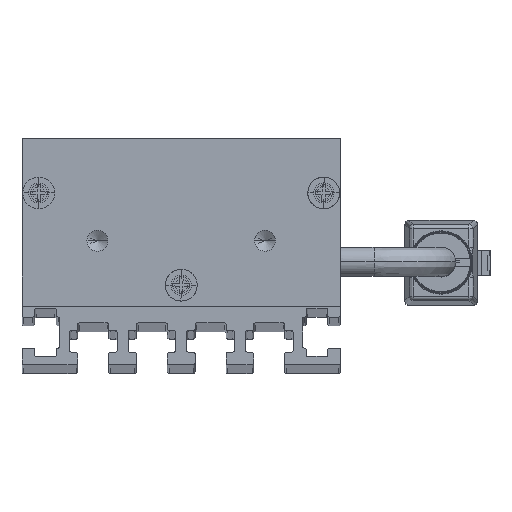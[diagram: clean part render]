
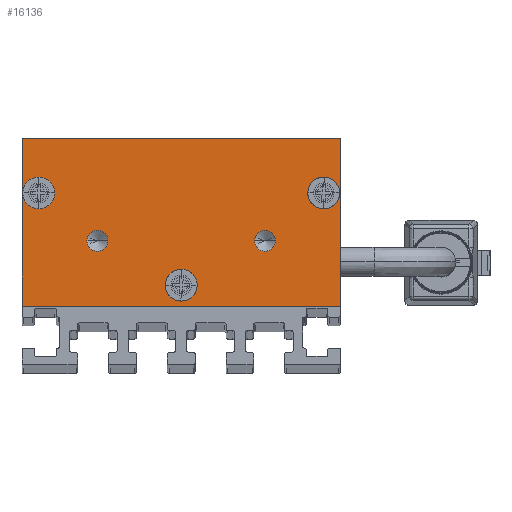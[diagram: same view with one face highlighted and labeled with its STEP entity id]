
A CAD part, top view. The second image highlights one B-rep face of the part: STEP entity #16136.
In plain terms, the highlighted planar face has unit normal (0, 0, 1) as drawn and (0, 0, -1) by its records, which use the part's own axes.
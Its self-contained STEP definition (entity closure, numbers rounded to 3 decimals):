
#133 = DIRECTION ( 'NONE',  ( 0., -1., 0. ) ) ;
#256 = DIRECTION ( 'NONE',  ( 0., 0., 1. ) ) ;
#304 = ORIENTED_EDGE ( 'NONE', *, *, #585, .F. ) ;
#562 = DIRECTION ( 'NONE',  ( 0., 0., -1. ) ) ;
#585 = EDGE_CURVE ( 'NONE', #1701, #11693, #7015, .T. ) ;
#697 = CIRCLE ( 'NONE', #11526, 1.9 ) ;
#937 = FACE_BOUND ( 'NONE', #6894, .T. ) ;
#1406 = AXIS2_PLACEMENT_3D ( 'NONE', #8312, #8391, #9309 ) ;
#1411 = FACE_BOUND ( 'NONE', #3206, .T. ) ;
#1440 = CARTESIAN_POINT ( 'NONE',  ( 18.9, 13.5, -2.5 ) ) ;
#1482 = DIRECTION ( 'NONE',  ( -1., 0., 0. ) ) ;
#1517 = EDGE_CURVE ( 'NONE', #8710, #2557, #14678, .T. ) ;
#1574 = CARTESIAN_POINT ( 'NONE',  ( -8.75, 7.8, -2.5 ) ) ;
#1701 = VERTEX_POINT ( 'NONE', #1440 ) ;
#1941 = EDGE_CURVE ( 'NONE', #4149, #5088, #9570, .T. ) ;
#1951 = VECTOR ( 'NONE', #133, 1000. ) ;
#2025 = CARTESIAN_POINT ( 'NONE',  ( -10., 7.8, -2.5 ) ) ;
#2254 = EDGE_CURVE ( 'NONE', #15345, #3877, #15181, .T. ) ;
#2317 = CARTESIAN_POINT ( 'NONE',  ( -1.9, 2.5, -2.5 ) ) ;
#2557 = VERTEX_POINT ( 'NONE', #9157 ) ;
#2591 = CARTESIAN_POINT ( 'NONE',  ( 15.1, 13.5, -2.5 ) ) ;
#2594 = VERTEX_POINT ( 'NONE', #2938 ) ;
#2641 = CARTESIAN_POINT ( 'NONE',  ( -19., 0., -2.5 ) ) ;
#2702 = AXIS2_PLACEMENT_3D ( 'NONE', #14650, #9909, #14984 ) ;
#2868 = LINE ( 'NONE', #3200, #3971 ) ;
#2903 = EDGE_LOOP ( 'NONE', ( #15952, #14654, #4337, #10030 ) ) ;
#2923 = DIRECTION ( 'NONE',  ( -1., 0., 0. ) ) ;
#2938 = CARTESIAN_POINT ( 'NONE',  ( -11.25, 7.8, -2.5 ) ) ;
#2990 = CARTESIAN_POINT ( 'NONE',  ( 0., 2.5, -2.5 ) ) ;
#3126 = CARTESIAN_POINT ( 'NONE',  ( -18.9, 13.5, -2.5 ) ) ;
#3200 = CARTESIAN_POINT ( 'NONE',  ( 19., 20., -2.5 ) ) ;
#3206 = EDGE_LOOP ( 'NONE', ( #13642, #5934 ) ) ;
#3350 = EDGE_CURVE ( 'NONE', #3877, #15345, #3976, .T. ) ;
#3461 = VECTOR ( 'NONE', #13069, 1000. ) ;
#3808 = EDGE_CURVE ( 'NONE', #5088, #16309, #9177, .T. ) ;
#3877 = VERTEX_POINT ( 'NONE', #3126 ) ;
#3971 = VECTOR ( 'NONE', #11986, 1000. ) ;
#3976 = CIRCLE ( 'NONE', #5829, 1.9 ) ;
#4079 = CARTESIAN_POINT ( 'NONE',  ( 0., 0., -2.5 ) ) ;
#4149 = VERTEX_POINT ( 'NONE', #4936 ) ;
#4337 = ORIENTED_EDGE ( 'NONE', *, *, #5984, .F. ) ;
#4406 = EDGE_CURVE ( 'NONE', #15134, #2594, #14573, .T. ) ;
#4510 = DIRECTION ( 'NONE',  ( -1., 0., 0. ) ) ;
#4614 = CARTESIAN_POINT ( 'NONE',  ( -10., 7.8, -2.5 ) ) ;
#4817 = CARTESIAN_POINT ( 'NONE',  ( 1.9, 2.5, -2.5 ) ) ;
#4936 = CARTESIAN_POINT ( 'NONE',  ( -19., 20., -2.5 ) ) ;
#5085 = CIRCLE ( 'NONE', #11439, 1.9 ) ;
#5088 = VERTEX_POINT ( 'NONE', #2641 ) ;
#5106 = CARTESIAN_POINT ( 'NONE',  ( -19., 20., -2.5 ) ) ;
#5228 = PLANE ( 'NONE',  #15824 ) ;
#5258 = CARTESIAN_POINT ( 'NONE',  ( -19., 20., -2.5 ) ) ;
#5404 = ORIENTED_EDGE ( 'NONE', *, *, #15124, .F. ) ;
#5423 = AXIS2_PLACEMENT_3D ( 'NONE', #4614, #8493, #13484 ) ;
#5555 = DIRECTION ( 'NONE',  ( -1., 0., 0. ) ) ;
#5610 = DIRECTION ( 'NONE',  ( -1., 0., 0. ) ) ;
#5829 = AXIS2_PLACEMENT_3D ( 'NONE', #8942, #7775, #1482 ) ;
#5908 = CARTESIAN_POINT ( 'NONE',  ( 0., 2.5, -2.5 ) ) ;
#5934 = ORIENTED_EDGE ( 'NONE', *, *, #12941, .F. ) ;
#5984 = EDGE_CURVE ( 'NONE', #16309, #7040, #2868, .T. ) ;
#6739 = CIRCLE ( 'NONE', #5423, 1.25 ) ;
#6807 = CIRCLE ( 'NONE', #9979, 1.9 ) ;
#6894 = EDGE_LOOP ( 'NONE', ( #10839, #5404 ) ) ;
#7015 = CIRCLE ( 'NONE', #12004, 1.9 ) ;
#7021 = ORIENTED_EDGE ( 'NONE', *, *, #3350, .F. ) ;
#7040 = VERTEX_POINT ( 'NONE', #11083 ) ;
#7247 = AXIS2_PLACEMENT_3D ( 'NONE', #11911, #562, #5610 ) ;
#7401 = AXIS2_PLACEMENT_3D ( 'NONE', #2025, #13957, #15047 ) ;
#7525 = EDGE_CURVE ( 'NONE', #2594, #15134, #6739, .T. ) ;
#7775 = DIRECTION ( 'NONE',  ( 0., 0., -1. ) ) ;
#7788 = DIRECTION ( 'NONE',  ( 1., 0., 0. ) ) ;
#8312 = CARTESIAN_POINT ( 'NONE',  ( 10., 7.8, -2.5 ) ) ;
#8391 = DIRECTION ( 'NONE',  ( 0., 0., -1. ) ) ;
#8493 = DIRECTION ( 'NONE',  ( 0., 0., -1. ) ) ;
#8710 = VERTEX_POINT ( 'NONE', #15995 ) ;
#8942 = CARTESIAN_POINT ( 'NONE',  ( -17., 13.5, -2.5 ) ) ;
#9059 = ORIENTED_EDGE ( 'NONE', *, *, #7525, .F. ) ;
#9157 = CARTESIAN_POINT ( 'NONE',  ( 11.25, 7.8, -2.5 ) ) ;
#9177 = LINE ( 'NONE', #11905, #3461 ) ;
#9215 = CARTESIAN_POINT ( 'NONE',  ( 19., 0., -2.5 ) ) ;
#9309 = DIRECTION ( 'NONE',  ( -1., 0., 0. ) ) ;
#9455 = EDGE_CURVE ( 'NONE', #11693, #1701, #6807, .T. ) ;
#9467 = DIRECTION ( 'NONE',  ( 0., 0., -1. ) ) ;
#9570 = LINE ( 'NONE', #5106, #1951 ) ;
#9909 = DIRECTION ( 'NONE',  ( 0., 0., -1. ) ) ;
#9979 = AXIS2_PLACEMENT_3D ( 'NONE', #13122, #11703, #2923 ) ;
#10030 = ORIENTED_EDGE ( 'NONE', *, *, #3808, .F. ) ;
#10415 = VERTEX_POINT ( 'NONE', #4817 ) ;
#10542 = ORIENTED_EDGE ( 'NONE', *, *, #4406, .F. ) ;
#10651 = EDGE_LOOP ( 'NONE', ( #13235, #304 ) ) ;
#10668 = ORIENTED_EDGE ( 'NONE', *, *, #2254, .F. ) ;
#10839 = ORIENTED_EDGE ( 'NONE', *, *, #11955, .F. ) ;
#10950 = CIRCLE ( 'NONE', #1406, 1.25 ) ;
#11043 = FACE_BOUND ( 'NONE', #12796, .T. ) ;
#11083 = CARTESIAN_POINT ( 'NONE',  ( 19., 20., -2.5 ) ) ;
#11439 = AXIS2_PLACEMENT_3D ( 'NONE', #5908, #13300, #4510 ) ;
#11526 = AXIS2_PLACEMENT_3D ( 'NONE', #2990, #11777, #5555 ) ;
#11550 = VECTOR ( 'NONE', #15395, 1000. ) ;
#11568 = LINE ( 'NONE', #5258, #11550 ) ;
#11693 = VERTEX_POINT ( 'NONE', #2591 ) ;
#11703 = DIRECTION ( 'NONE',  ( 0., 0., -1. ) ) ;
#11777 = DIRECTION ( 'NONE',  ( 0., 0., -1. ) ) ;
#11866 = CARTESIAN_POINT ( 'NONE',  ( 17., 13.5, -2.5 ) ) ;
#11905 = CARTESIAN_POINT ( 'NONE',  ( -19., 0., -2.5 ) ) ;
#11911 = CARTESIAN_POINT ( 'NONE',  ( 10., 7.8, -2.5 ) ) ;
#11955 = EDGE_CURVE ( 'NONE', #13429, #10415, #5085, .T. ) ;
#11986 = DIRECTION ( 'NONE',  ( 0., 1., 0. ) ) ;
#12004 = AXIS2_PLACEMENT_3D ( 'NONE', #11866, #9467, #14526 ) ;
#12292 = FACE_BOUND ( 'NONE', #10651, .T. ) ;
#12796 = EDGE_LOOP ( 'NONE', ( #7021, #10668 ) ) ;
#12941 = EDGE_CURVE ( 'NONE', #2557, #8710, #10950, .T. ) ;
#13021 = EDGE_LOOP ( 'NONE', ( #9059, #10542 ) ) ;
#13069 = DIRECTION ( 'NONE',  ( 1., 0., 0. ) ) ;
#13122 = CARTESIAN_POINT ( 'NONE',  ( 17., 13.5, -2.5 ) ) ;
#13235 = ORIENTED_EDGE ( 'NONE', *, *, #9455, .F. ) ;
#13300 = DIRECTION ( 'NONE',  ( 0., 0., -1. ) ) ;
#13429 = VERTEX_POINT ( 'NONE', #2317 ) ;
#13484 = DIRECTION ( 'NONE',  ( -1., 0., 0. ) ) ;
#13642 = ORIENTED_EDGE ( 'NONE', *, *, #1517, .F. ) ;
#13951 = FACE_OUTER_BOUND ( 'NONE', #2903, .T. ) ;
#13957 = DIRECTION ( 'NONE',  ( 0., 0., -1. ) ) ;
#14025 = FACE_BOUND ( 'NONE', #13021, .T. ) ;
#14526 = DIRECTION ( 'NONE',  ( -1., 0., 0. ) ) ;
#14573 = CIRCLE ( 'NONE', #7401, 1.25 ) ;
#14650 = CARTESIAN_POINT ( 'NONE',  ( -17., 13.5, -2.5 ) ) ;
#14654 = ORIENTED_EDGE ( 'NONE', *, *, #15957, .F. ) ;
#14678 = CIRCLE ( 'NONE', #7247, 1.25 ) ;
#14984 = DIRECTION ( 'NONE',  ( -1., 0., 0. ) ) ;
#15047 = DIRECTION ( 'NONE',  ( -1., 0., 0. ) ) ;
#15124 = EDGE_CURVE ( 'NONE', #10415, #13429, #697, .T. ) ;
#15134 = VERTEX_POINT ( 'NONE', #1574 ) ;
#15181 = CIRCLE ( 'NONE', #2702, 1.9 ) ;
#15249 = CARTESIAN_POINT ( 'NONE',  ( -15.1, 13.5, -2.5 ) ) ;
#15345 = VERTEX_POINT ( 'NONE', #15249 ) ;
#15395 = DIRECTION ( 'NONE',  ( -1., 0., 0. ) ) ;
#15824 = AXIS2_PLACEMENT_3D ( 'NONE', #4079, #256, #7788 ) ;
#15952 = ORIENTED_EDGE ( 'NONE', *, *, #1941, .F. ) ;
#15957 = EDGE_CURVE ( 'NONE', #7040, #4149, #11568, .T. ) ;
#15995 = CARTESIAN_POINT ( 'NONE',  ( 8.75, 7.8, -2.5 ) ) ;
#16136 = ADVANCED_FACE ( 'NONE', ( #12292, #937, #11043, #1411, #14025, #13951 ), #5228, .F. ) ;
#16309 = VERTEX_POINT ( 'NONE', #9215 ) ;
